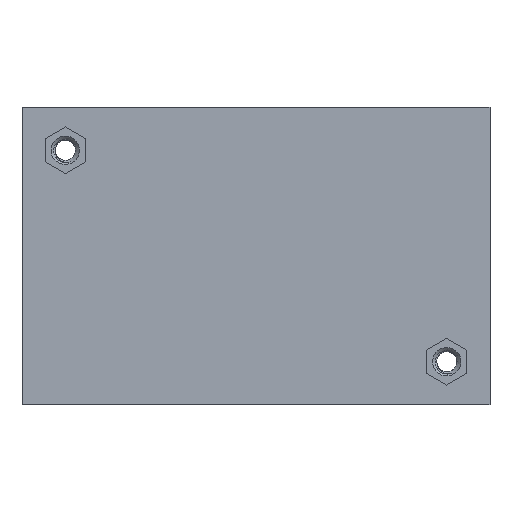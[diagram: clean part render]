
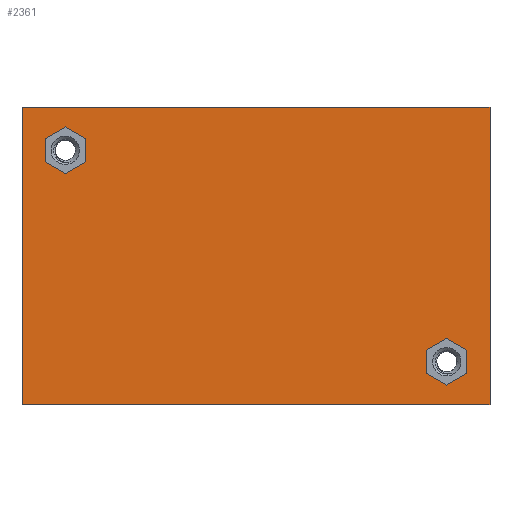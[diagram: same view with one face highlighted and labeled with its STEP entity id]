
A CAD part, front view. The second image highlights one B-rep face of the part: STEP entity #2361.
In plain terms, the highlighted planar face has unit normal (0, -1, 0) as drawn and (0, 1, 0) by its records, which use the part's own axes.
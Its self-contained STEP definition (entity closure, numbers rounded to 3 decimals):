
#61 = EDGE_LOOP ( 'NONE', ( #6386, #10078, #737, #1353 ) ) ;
#119 = VECTOR ( 'NONE', #6064, 1000. ) ;
#139 = DIRECTION ( 'NONE',  ( 0., 1., 0. ) ) ;
#228 = VERTEX_POINT ( 'NONE', #3423 ) ;
#279 = EDGE_CURVE ( 'NONE', #228, #1976, #9510, .T. ) ;
#335 = CARTESIAN_POINT ( 'NONE',  ( 26.1, 1.2, 11.637 ) ) ;
#341 = AXIS2_PLACEMENT_3D ( 'NONE', #7915, #139, #5588 ) ;
#372 = VECTOR ( 'NONE', #1504, 1000. ) ;
#623 = LINE ( 'NONE', #6762, #4766 ) ;
#652 = CARTESIAN_POINT ( 'NONE',  ( -21.1, 1.2, -11.637 ) ) ;
#714 = CARTESIAN_POINT ( 'NONE',  ( -26.1, 1.2, -14.523 ) ) ;
#737 = ORIENTED_EDGE ( 'NONE', *, *, #9363, .T. ) ;
#770 = VECTOR ( 'NONE', #3133, 1000. ) ;
#819 = CARTESIAN_POINT ( 'NONE',  ( 23.6, 1.2, 15.967 ) ) ;
#848 = PLANE ( 'NONE',  #341 ) ;
#899 = CARTESIAN_POINT ( 'NONE',  ( 23.6, 1.2, 15.967 ) ) ;
#1116 = EDGE_CURVE ( 'NONE', #8755, #3768, #3926, .T. ) ;
#1176 = VECTOR ( 'NONE', #5615, 1000. ) ;
#1254 = VECTOR ( 'NONE', #5791, 1000. ) ;
#1273 = FACE_BOUND ( 'NONE', #10051, .T. ) ;
#1277 = DIRECTION ( 'NONE',  ( 0.866, 0., 0.5 ) ) ;
#1309 = CARTESIAN_POINT ( 'NONE',  ( -21.1, 1.2, -14.523 ) ) ;
#1316 = EDGE_CURVE ( 'NONE', #1390, #7654, #3442, .T. ) ;
#1353 = ORIENTED_EDGE ( 'NONE', *, *, #5696, .T. ) ;
#1375 = VECTOR ( 'NONE', #10013, 1000. ) ;
#1390 = VERTEX_POINT ( 'NONE', #6459 ) ;
#1412 = LINE ( 'NONE', #4139, #1176 ) ;
#1436 = CARTESIAN_POINT ( 'NONE',  ( -28.95, 1.2, -18.4 ) ) ;
#1504 = DIRECTION ( 'NONE',  ( 0., 0., -1. ) ) ;
#1527 = EDGE_LOOP ( 'NONE', ( #4607, #2822, #6478, #8063, #2107, #9233 ) ) ;
#1697 = VECTOR ( 'NONE', #7492, 1000. ) ;
#1815 = VECTOR ( 'NONE', #5783, 1000. ) ;
#1823 = EDGE_CURVE ( 'NONE', #9485, #1390, #4905, .T. ) ;
#1976 = VERTEX_POINT ( 'NONE', #7995 ) ;
#2021 = ORIENTED_EDGE ( 'NONE', *, *, #1823, .T. ) ;
#2107 = ORIENTED_EDGE ( 'NONE', *, *, #8646, .T. ) ;
#2135 = ORIENTED_EDGE ( 'NONE', *, *, #8548, .T. ) ;
#2339 = EDGE_CURVE ( 'NONE', #5948, #228, #8592, .T. ) ;
#2361 = ADVANCED_FACE ( 'NONE', ( #3085, #7261, #1273 ), #848, .T. ) ;
#2411 = LINE ( 'NONE', #6828, #4300 ) ;
#2682 = ORIENTED_EDGE ( 'NONE', *, *, #2929, .T. ) ;
#2791 = CARTESIAN_POINT ( 'NONE',  ( -26.1, 1.2, -11.637 ) ) ;
#2822 = ORIENTED_EDGE ( 'NONE', *, *, #7420, .T. ) ;
#2848 = VERTEX_POINT ( 'NONE', #7841 ) ;
#2866 = VERTEX_POINT ( 'NONE', #9407 ) ;
#2929 = EDGE_CURVE ( 'NONE', #4074, #9485, #3631, .T. ) ;
#2957 = CARTESIAN_POINT ( 'NONE',  ( 21.1, 1.2, 14.523 ) ) ;
#3021 = VERTEX_POINT ( 'NONE', #7297 ) ;
#3030 = CARTESIAN_POINT ( 'NONE',  ( -26.1, 1.2, -11.637 ) ) ;
#3085 = FACE_BOUND ( 'NONE', #1527, .T. ) ;
#3133 = DIRECTION ( 'NONE',  ( 0., 0., 1. ) ) ;
#3180 = VECTOR ( 'NONE', #7704, 1000. ) ;
#3257 = CARTESIAN_POINT ( 'NONE',  ( 26.1, 1.2, 14.523 ) ) ;
#3365 = VERTEX_POINT ( 'NONE', #8925 ) ;
#3423 = CARTESIAN_POINT ( 'NONE',  ( -28.95, 1.2, 18.4 ) ) ;
#3424 = LINE ( 'NONE', #5821, #1815 ) ;
#3442 = LINE ( 'NONE', #2957, #4969 ) ;
#3543 = VERTEX_POINT ( 'NONE', #1309 ) ;
#3631 = LINE ( 'NONE', #3257, #5680 ) ;
#3768 = VERTEX_POINT ( 'NONE', #714 ) ;
#3926 = LINE ( 'NONE', #2791, #1697 ) ;
#3978 = CARTESIAN_POINT ( 'NONE',  ( -28.95, 1.2, -18.4 ) ) ;
#4065 = DIRECTION ( 'NONE',  ( -0.866, 0., 0.5 ) ) ;
#4074 = VERTEX_POINT ( 'NONE', #5915 ) ;
#4139 = CARTESIAN_POINT ( 'NONE',  ( -23.6, 1.2, -15.967 ) ) ;
#4251 = VECTOR ( 'NONE', #9413, 1000. ) ;
#4294 = EDGE_CURVE ( 'NONE', #2848, #8755, #9677, .T. ) ;
#4300 = VECTOR ( 'NONE', #7598, 1000. ) ;
#4329 = VECTOR ( 'NONE', #4384, 1000. ) ;
#4384 = DIRECTION ( 'NONE',  ( -0.866, 0., -0.5 ) ) ;
#4498 = LINE ( 'NONE', #4744, #4251 ) ;
#4526 = LINE ( 'NONE', #8522, #372 ) ;
#4607 = ORIENTED_EDGE ( 'NONE', *, *, #8456, .T. ) ;
#4654 = EDGE_CURVE ( 'NONE', #4992, #4074, #7495, .T. ) ;
#4744 = CARTESIAN_POINT ( 'NONE',  ( -21.1, 1.2, -11.637 ) ) ;
#4766 = VECTOR ( 'NONE', #1277, 1000. ) ;
#4905 = LINE ( 'NONE', #819, #4329 ) ;
#4969 = VECTOR ( 'NONE', #9220, 1000. ) ;
#4992 = VERTEX_POINT ( 'NONE', #5767 ) ;
#5350 = CARTESIAN_POINT ( 'NONE',  ( -23.6, 1.2, -10.193 ) ) ;
#5588 = DIRECTION ( 'NONE',  ( 0., 0., 1. ) ) ;
#5615 = DIRECTION ( 'NONE',  ( 0.866, 0., 0.5 ) ) ;
#5665 = DIRECTION ( 'NONE',  ( 1., 0., 0. ) ) ;
#5680 = VECTOR ( 'NONE', #4065, 1000. ) ;
#5696 = EDGE_CURVE ( 'NONE', #2866, #5948, #7097, .T. ) ;
#5767 = CARTESIAN_POINT ( 'NONE',  ( 26.1, 1.2, 11.637 ) ) ;
#5783 = DIRECTION ( 'NONE',  ( 0., 0., 1. ) ) ;
#5791 = DIRECTION ( 'NONE',  ( 0., 0., 1. ) ) ;
#5821 = CARTESIAN_POINT ( 'NONE',  ( -21.1, 1.2, -14.523 ) ) ;
#5915 = CARTESIAN_POINT ( 'NONE',  ( 26.1, 1.2, 14.523 ) ) ;
#5948 = VERTEX_POINT ( 'NONE', #9426 ) ;
#6064 = DIRECTION ( 'NONE',  ( 0.866, 0., -0.5 ) ) ;
#6386 = ORIENTED_EDGE ( 'NONE', *, *, #2339, .T. ) ;
#6459 = CARTESIAN_POINT ( 'NONE',  ( 21.1, 1.2, 14.523 ) ) ;
#6478 = ORIENTED_EDGE ( 'NONE', *, *, #4294, .T. ) ;
#6564 = CARTESIAN_POINT ( 'NONE',  ( 21.1, 1.2, 11.637 ) ) ;
#6727 = VECTOR ( 'NONE', #5665, 1000. ) ;
#6762 = CARTESIAN_POINT ( 'NONE',  ( 23.6, 1.2, 10.193 ) ) ;
#6828 = CARTESIAN_POINT ( 'NONE',  ( 21.1, 1.2, 11.637 ) ) ;
#7097 = LINE ( 'NONE', #1436, #3180 ) ;
#7261 = FACE_OUTER_BOUND ( 'NONE', #61, .T. ) ;
#7297 = CARTESIAN_POINT ( 'NONE',  ( -23.6, 1.2, -15.967 ) ) ;
#7420 = EDGE_CURVE ( 'NONE', #9286, #2848, #4498, .T. ) ;
#7492 = DIRECTION ( 'NONE',  ( 0., 0., -1. ) ) ;
#7495 = LINE ( 'NONE', #335, #1254 ) ;
#7598 = DIRECTION ( 'NONE',  ( 0.866, 0., -0.5 ) ) ;
#7612 = EDGE_CURVE ( 'NONE', #3021, #3543, #1412, .T. ) ;
#7629 = CARTESIAN_POINT ( 'NONE',  ( -26.1, 1.2, -14.523 ) ) ;
#7654 = VERTEX_POINT ( 'NONE', #6564 ) ;
#7665 = ORIENTED_EDGE ( 'NONE', *, *, #1316, .T. ) ;
#7704 = DIRECTION ( 'NONE',  ( -1., 0., 0. ) ) ;
#7841 = CARTESIAN_POINT ( 'NONE',  ( -23.6, 1.2, -10.193 ) ) ;
#7915 = CARTESIAN_POINT ( 'NONE',  ( -28.95, 1.2, 18.4 ) ) ;
#7995 = CARTESIAN_POINT ( 'NONE',  ( 28.95, 1.2, 18.4 ) ) ;
#8063 = ORIENTED_EDGE ( 'NONE', *, *, #1116, .T. ) ;
#8190 = LINE ( 'NONE', #7629, #119 ) ;
#8456 = EDGE_CURVE ( 'NONE', #3543, #9286, #3424, .T. ) ;
#8522 = CARTESIAN_POINT ( 'NONE',  ( 28.95, 1.2, -18.4 ) ) ;
#8548 = EDGE_CURVE ( 'NONE', #3365, #4992, #623, .T. ) ;
#8592 = LINE ( 'NONE', #3978, #770 ) ;
#8618 = EDGE_CURVE ( 'NONE', #7654, #3365, #2411, .T. ) ;
#8646 = EDGE_CURVE ( 'NONE', #3768, #3021, #8190, .T. ) ;
#8755 = VERTEX_POINT ( 'NONE', #3030 ) ;
#8925 = CARTESIAN_POINT ( 'NONE',  ( 23.6, 1.2, 10.193 ) ) ;
#9220 = DIRECTION ( 'NONE',  ( 0., 0., -1. ) ) ;
#9233 = ORIENTED_EDGE ( 'NONE', *, *, #7612, .T. ) ;
#9286 = VERTEX_POINT ( 'NONE', #652 ) ;
#9363 = EDGE_CURVE ( 'NONE', #1976, #2866, #4526, .T. ) ;
#9407 = CARTESIAN_POINT ( 'NONE',  ( 28.95, 1.2, -18.4 ) ) ;
#9413 = DIRECTION ( 'NONE',  ( -0.866, 0., 0.5 ) ) ;
#9426 = CARTESIAN_POINT ( 'NONE',  ( -28.95, 1.2, -18.4 ) ) ;
#9485 = VERTEX_POINT ( 'NONE', #899 ) ;
#9510 = LINE ( 'NONE', #9589, #6727 ) ;
#9589 = CARTESIAN_POINT ( 'NONE',  ( -28.95, 1.2, 18.4 ) ) ;
#9603 = ORIENTED_EDGE ( 'NONE', *, *, #4654, .T. ) ;
#9662 = ORIENTED_EDGE ( 'NONE', *, *, #8618, .T. ) ;
#9677 = LINE ( 'NONE', #5350, #1375 ) ;
#10013 = DIRECTION ( 'NONE',  ( -0.866, 0., -0.5 ) ) ;
#10051 = EDGE_LOOP ( 'NONE', ( #9603, #2682, #2021, #7665, #9662, #2135 ) ) ;
#10078 = ORIENTED_EDGE ( 'NONE', *, *, #279, .T. ) ;
